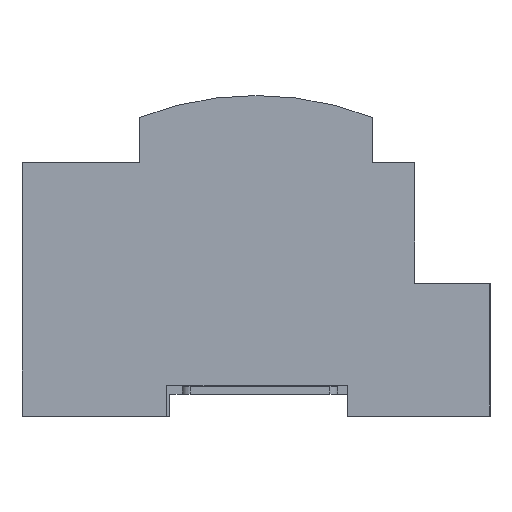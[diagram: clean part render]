
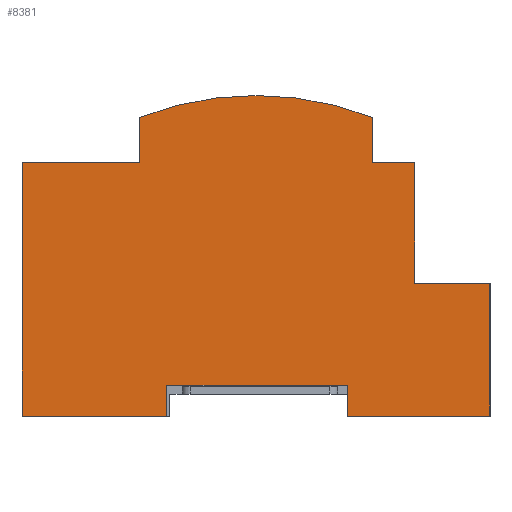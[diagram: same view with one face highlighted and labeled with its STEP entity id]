
A CAD part, left-side view. The second image highlights one B-rep face of the part: STEP entity #8381.
In plain terms, the highlighted planar face has unit normal (-1, 0, 0).
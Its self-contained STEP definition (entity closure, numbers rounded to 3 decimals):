
#716=DIRECTION('',(0.,-1.,0.));
#717=VECTOR('',#716,27.5);
#718=CARTESIAN_POINT('',(0.,-16.982,-4.221));
#719=LINE('',#718,#717);
#1822=DIRECTION('',(0.,-1.,0.));
#1823=VECTOR('',#1822,22.75);
#1824=CARTESIAN_POINT('',(0.,46.018,44.779));
#1825=LINE('',#1824,#1823);
#1826=DIRECTION('',(0.,0.,1.));
#1827=VECTOR('',#1826,8.759);
#1828=CARTESIAN_POINT('',(0.,23.268,44.779));
#1829=LINE('',#1828,#1827);
#1830=CARTESIAN_POINT('',(0.,0.768,-4.221));
#1831=DIRECTION('',(1.,0.,0.));
#1832=DIRECTION('',(0.,0.363,0.932));
#1833=AXIS2_PLACEMENT_3D('',#1830,#1831,#1832);
#1835=CARTESIAN_POINT('',(0.,0.768,-4.221));
#1836=DIRECTION('',(1.,0.,0.));
#1837=DIRECTION('',(0.,0.,1.));
#1838=AXIS2_PLACEMENT_3D('',#1835,#1836,#1837);
#1840=DIRECTION('',(0.,0.,-1.));
#1841=VECTOR('',#1840,8.759);
#1842=CARTESIAN_POINT('',(0.,-21.732,53.539));
#1843=LINE('',#1842,#1841);
#1844=DIRECTION('',(0.,-1.,0.));
#1845=VECTOR('',#1844,8.2);
#1846=CARTESIAN_POINT('',(0.,-21.732,44.779));
#1847=LINE('',#1846,#1845);
#1848=DIRECTION('',(0.,0.,-1.));
#1849=VECTOR('',#1848,23.3);
#1850=CARTESIAN_POINT('',(0.,-29.932,44.779));
#1851=LINE('',#1850,#1849);
#1852=DIRECTION('',(0.,-1.,0.));
#1853=VECTOR('',#1852,14.55);
#1854=CARTESIAN_POINT('',(0.,-29.932,21.479));
#1855=LINE('',#1854,#1853);
#1856=DIRECTION('',(0.,0.,-1.));
#1857=VECTOR('',#1856,25.7);
#1858=CARTESIAN_POINT('',(0.,-44.482,21.479));
#1859=LINE('',#1858,#1857);
#1860=DIRECTION('',(0.,1.,0.));
#1861=VECTOR('',#1860,28.);
#1862=CARTESIAN_POINT('',(0.,18.018,-4.221));
#1863=LINE('',#1862,#1861);
#1864=DIRECTION('',(0.,0.,1.));
#1865=VECTOR('',#1864,49.);
#1866=CARTESIAN_POINT('',(0.,46.018,-4.221));
#1867=LINE('',#1866,#1865);
#2388=DIRECTION('',(0.,0.,1.));
#2389=VECTOR('',#2388,6.);
#2390=CARTESIAN_POINT('',(0.,18.018,-4.221));
#2391=LINE('',#2390,#2389);
#2396=DIRECTION('',(0.,-1.,0.));
#2397=VECTOR('',#2396,35.);
#2398=CARTESIAN_POINT('',(0.,18.018,1.779));
#2399=LINE('',#2398,#2397);
#2404=DIRECTION('',(0.,0.,-1.));
#2405=VECTOR('',#2404,6.);
#2406=CARTESIAN_POINT('',(0.,-16.982,1.779));
#2407=LINE('',#2406,#2405);
#4771=CARTESIAN_POINT('',(0.,-29.932,21.479));
#4772=VERTEX_POINT('',#4771);
#4773=CARTESIAN_POINT('',(0.,-29.932,44.779));
#4774=VERTEX_POINT('',#4773);
#4817=CARTESIAN_POINT('',(0.,-16.982,-4.221));
#4818=VERTEX_POINT('',#4817);
#4819=CARTESIAN_POINT('',(0.,-44.482,-4.221));
#4820=VERTEX_POINT('',#4819);
#5066=CARTESIAN_POINT('',(0.,46.018,-4.221));
#5068=VERTEX_POINT('',#5066);
#5069=CARTESIAN_POINT('',(0.,18.018,-4.221));
#5070=VERTEX_POINT('',#5069);
#5074=CARTESIAN_POINT('',(0.,46.018,44.779));
#5076=VERTEX_POINT('',#5074);
#5077=CARTESIAN_POINT('',(0.,23.268,44.779));
#5078=VERTEX_POINT('',#5077);
#5081=CARTESIAN_POINT('',(0.,23.268,53.539));
#5082=VERTEX_POINT('',#5081);
#5083=CARTESIAN_POINT('',(0.,0.768,57.766));
#5084=VERTEX_POINT('',#5083);
#5085=CARTESIAN_POINT('',(0.,-21.732,53.539));
#5086=VERTEX_POINT('',#5085);
#5087=CARTESIAN_POINT('',(0.,-21.732,44.779));
#5088=VERTEX_POINT('',#5087);
#5089=CARTESIAN_POINT('',(0.,-44.482,21.479));
#5090=VERTEX_POINT('',#5089);
#5091=CARTESIAN_POINT('',(0.,-16.982,1.779));
#5092=VERTEX_POINT('',#5091);
#5093=CARTESIAN_POINT('',(0.,18.018,1.779));
#5094=VERTEX_POINT('',#5093);
#8348=CARTESIAN_POINT('',(0.,38.644,30.414));
#8349=DIRECTION('',(-1.,0.,0.));
#8350=DIRECTION('',(0.,-1.,0.));
#8351=AXIS2_PLACEMENT_3D('',#8348,#8349,#8350);
#8352=PLANE('',#8351);
#8354=ORIENTED_EDGE('',*,*,#8353,.T.);
#8356=ORIENTED_EDGE('',*,*,#8355,.T.);
#8358=ORIENTED_EDGE('',*,*,#8357,.T.);
#8360=ORIENTED_EDGE('',*,*,#8359,.T.);
#8361=ORIENTED_EDGE('',*,*,#8325,.T.);
#8362=ORIENTED_EDGE('',*,*,#8341,.T.);
#8363=ORIENTED_EDGE('',*,*,#7316,.T.);
#8365=ORIENTED_EDGE('',*,*,#8364,.T.);
#8367=ORIENTED_EDGE('',*,*,#8366,.T.);
#8368=ORIENTED_EDGE('',*,*,#6727,.F.);
#8370=ORIENTED_EDGE('',*,*,#8369,.F.);
#8372=ORIENTED_EDGE('',*,*,#8371,.F.);
#8374=ORIENTED_EDGE('',*,*,#8373,.F.);
#8376=ORIENTED_EDGE('',*,*,#8375,.T.);
#8378=ORIENTED_EDGE('',*,*,#8377,.T.);
#8379=EDGE_LOOP('',(#8354,#8356,#8358,#8360,#8361,#8362,#8363,#8365,#8367,#8368,
#8370,#8372,#8374,#8376,#8378));
#8380=FACE_OUTER_BOUND('',#8379,.F.);
#8381=ADVANCED_FACE('',(#8380),#8352,.T.);
#1834=CIRCLE('',#1833,61.987);
#1839=CIRCLE('',#1838,61.987);
#6727=EDGE_CURVE('',#4818,#4820,#719,.T.);
#7316=EDGE_CURVE('',#4774,#4772,#1851,.T.);
#8325=EDGE_CURVE('',#5086,#5088,#1843,.T.);
#8341=EDGE_CURVE('',#5088,#4774,#1847,.T.);
#8353=EDGE_CURVE('',#5076,#5078,#1825,.T.);
#8355=EDGE_CURVE('',#5078,#5082,#1829,.T.);
#8357=EDGE_CURVE('',#5082,#5084,#1834,.T.);
#8359=EDGE_CURVE('',#5084,#5086,#1839,.T.);
#8364=EDGE_CURVE('',#4772,#5090,#1855,.T.);
#8366=EDGE_CURVE('',#5090,#4820,#1859,.T.);
#8369=EDGE_CURVE('',#5092,#4818,#2407,.T.);
#8371=EDGE_CURVE('',#5094,#5092,#2399,.T.);
#8373=EDGE_CURVE('',#5070,#5094,#2391,.T.);
#8375=EDGE_CURVE('',#5070,#5068,#1863,.T.);
#8377=EDGE_CURVE('',#5068,#5076,#1867,.T.);
